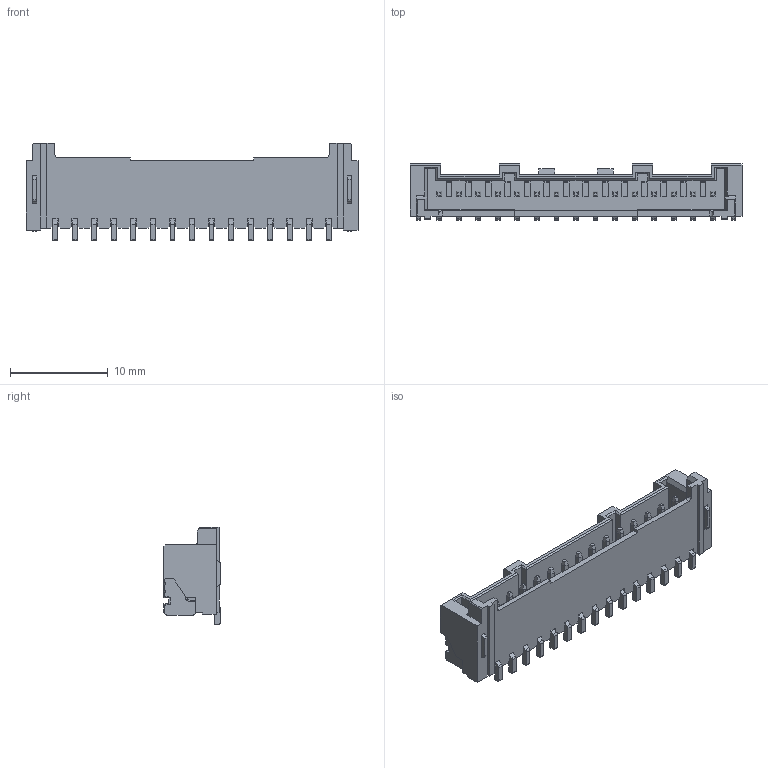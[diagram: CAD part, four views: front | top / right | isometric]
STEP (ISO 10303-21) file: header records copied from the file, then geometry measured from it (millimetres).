
FILE_DESCRIPTION(('CATIA V5 STEP Exchange'),'2;1');
FILE_NAME('Z:\3D文件\小黄（备用）\条形连接器\PA\NAWT\HC-PA-15AWT-05（2.00 单排 卧贴-HCTL）.stp','2025-06-23T06:10:40+00:00',('none'),('none'),'CATIA Version 5 Release 20 GA (IN-10)','CATIA V5 STEP AP203','none');
FILE_SCHEMA(('CONFIG_CONTROL_DESIGN'));
Length unit declared in the file: millimetre
Products named in the file (1): Part2
Bounding box: 34 x 5.75 x 10 mm (x, y, z)
Volume: 684.3 mm3; surface area: 1871.2 mm2
Topology: 1 solids, 31 shells, 991 faces, 2633 edges, 1686 vertices
Faces by surface type: plane 744, cylinder 247
Entity records: 26581 total; most frequent: ORIENTED_EDGE 5266, CARTESIAN_POINT 4679, DIRECTION 3251, EDGE_CURVE 2633, VECTOR 2113, LINE 2113, VERTEX_POINT 1686, EDGE_LOOP 1041
